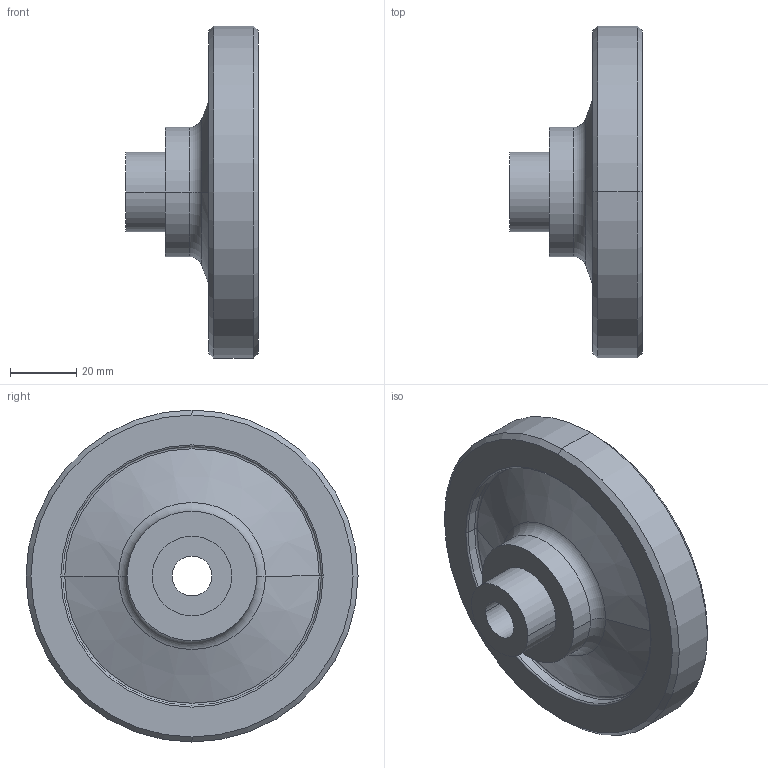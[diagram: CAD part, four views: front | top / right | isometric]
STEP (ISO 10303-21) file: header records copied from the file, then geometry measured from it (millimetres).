
FILE_DESCRIPTION (( 'STEP AP214' ), '1' );
FILE_NAME ('520.2-100-B12-A.step', '2020-05-28T15:31:50', ( '' ), ( '' ), 'SwSTEP 2.0', 'SolidWorks 2019', '' );
FILE_SCHEMA (( 'AUTOMOTIVE_DESIGN' ));
Length unit declared in the file: millimetre
Products named in the file (1): 520.2-100-B12-A
Bounding box: 40 x 100 x 100 mm (x, y, z)
Volume: 106495 mm3; surface area: 25083.2 mm2
Topology: 1 solids, 1 shells, 45 faces, 92 edges, 54 vertices
Faces by surface type: cylinder 16, cone 12, torus 10, plane 7
Entity records: 1331 total; most frequent: DIRECTION 248, CARTESIAN_POINT 192, ORIENTED_EDGE 184, AXIS2_PLACEMENT_3D 110, EDGE_CURVE 92, CIRCLE 64, VERTEX_POINT 54, EDGE_LOOP 52
